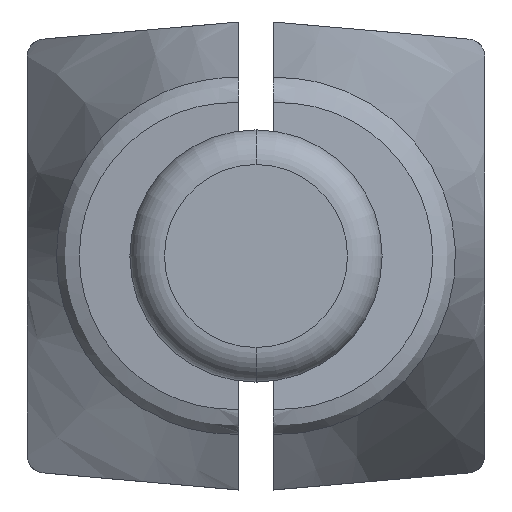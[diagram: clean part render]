
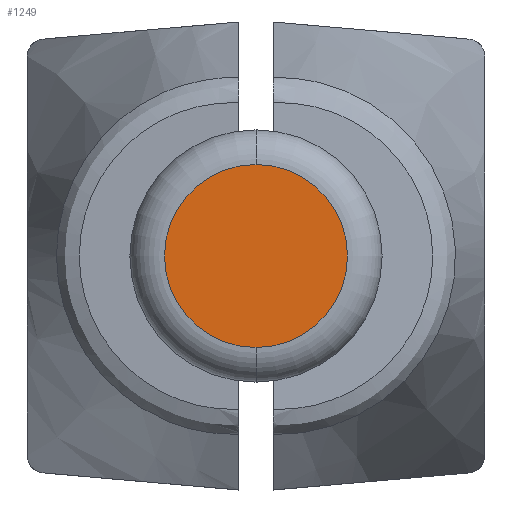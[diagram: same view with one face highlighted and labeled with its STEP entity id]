
A CAD part, left-side view. The second image highlights one B-rep face of the part: STEP entity #1249.
In plain terms, the highlighted planar face has unit normal (-1, 0, 0).
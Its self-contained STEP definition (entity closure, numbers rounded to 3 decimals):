
#114 = CARTESIAN_POINT ( 'NONE',  ( -99.3, 4.279, 0. ) ) ;
#255 = DIRECTION ( 'NONE',  ( -1., 0., 0. ) ) ;
#258 = VERTEX_POINT ( 'NONE', #6706 ) ;
#905 = CIRCLE ( 'NONE', #1170, 5.279 ) ;
#1128 = DIRECTION ( 'NONE',  ( 0., 0., 1. ) ) ;
#1170 = AXIS2_PLACEMENT_3D ( 'NONE', #2672, #4339, #1128 ) ;
#1249 = ADVANCED_FACE ( 'NONE', ( #5787 ), #5889, .F. ) ;
#1288 = ORIENTED_EDGE ( 'NONE', *, *, #3948, .T. ) ;
#1304 = CARTESIAN_POINT ( 'NONE',  ( -99.3, -1., 0. ) ) ;
#1326 = DIRECTION ( 'NONE',  ( 0., 0., 1. ) ) ;
#1482 = EDGE_CURVE ( 'NONE', #3264, #258, #905, .T. ) ;
#2550 = ORIENTED_EDGE ( 'NONE', *, *, #1482, .T. ) ;
#2672 = CARTESIAN_POINT ( 'NONE',  ( -99.3, -1., 0. ) ) ;
#2803 = CIRCLE ( 'NONE', #3883, 5.279 ) ;
#3264 = VERTEX_POINT ( 'NONE', #3985 ) ;
#3321 = DIRECTION ( 'NONE',  ( 0., 0., -1. ) ) ;
#3883 = AXIS2_PLACEMENT_3D ( 'NONE', #1304, #255, #1326 ) ;
#3948 = EDGE_CURVE ( 'NONE', #258, #3264, #2803, .T. ) ;
#3985 = CARTESIAN_POINT ( 'NONE',  ( -99.3, -1., -5.279 ) ) ;
#4339 = DIRECTION ( 'NONE',  ( -1., 0., 0. ) ) ;
#4513 = EDGE_LOOP ( 'NONE', ( #1288, #2550 ) ) ;
#5014 = AXIS2_PLACEMENT_3D ( 'NONE', #114, #6415, #3321 ) ;
#5787 = FACE_OUTER_BOUND ( 'NONE', #4513, .T. ) ;
#5889 = PLANE ( 'NONE',  #5014 ) ;
#6415 = DIRECTION ( 'NONE',  ( 1., 0., 0. ) ) ;
#6706 = CARTESIAN_POINT ( 'NONE',  ( -99.3, -1., 5.279 ) ) ;
